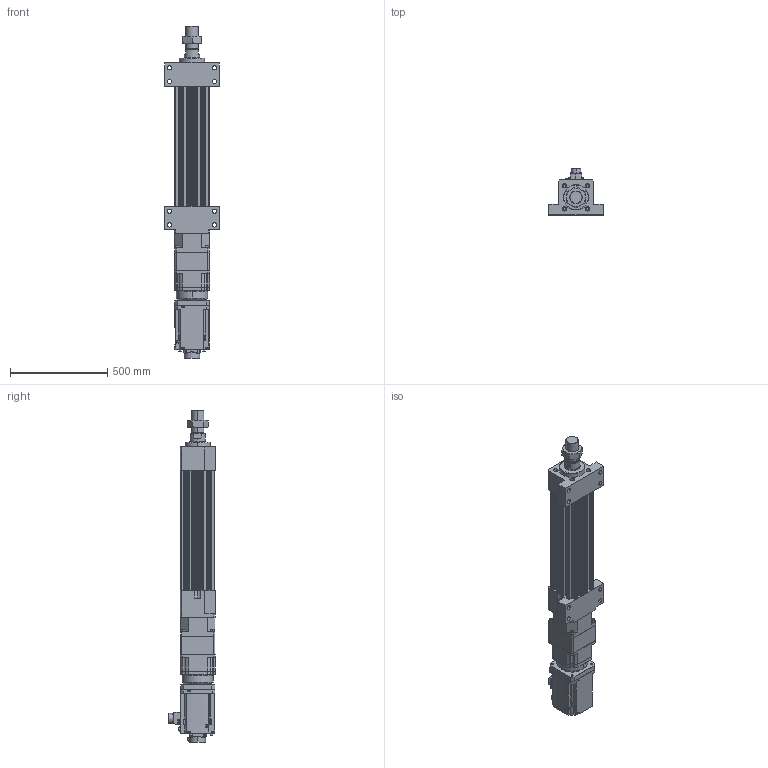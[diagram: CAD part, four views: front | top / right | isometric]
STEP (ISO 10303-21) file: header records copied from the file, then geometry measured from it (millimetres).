
FILE_DESCRIPTION (( 'STEP AP203' ), '1' );
FILE_NAME ('HES180HS-S300-W070G00-M-FFB.STEP', '2026-06-10T06:51:23', ( 'tms' ), ( '' ), 'SwSTEP 2.0', 'SolidWorks 2013', '' );
FILE_SCHEMA (( 'CONFIG_CONTROL_DESIGN' ));
Length unit declared in the file: millimetre
Products named in the file (9): HG-SR702B; HES180-FFB-300; HES180-S-G180; AB1803; AB1802; AB1801; M64X2.0P; HES180HS-S300-W070G00-M-FFB; HES180-M-ROD-300
Assembly tree (8 placements, depth 2):
  HES180HS-S300-W070G00-M-FFB
    HES180-FFB-300
    HES180-M-ROD-300
    M64X2.0P
    HES180-S-G180
    AB1801
    AB1802
    AB1803
    HG-SR702B
Bounding box: 280 x 239.1 x 1705.74 mm (x, y, z)
Volume: 27221391.2 mm3; surface area: 2396717.7 mm2
Topology: 5 solids, 20 shells, 1552 faces, 4023 edges, 2624 vertices
Faces by surface type: cylinder 704, plane 639, cone 142, bspline 63, torus 4
Entity records: 56368 total; most frequent: CARTESIAN_POINT 16636, DIRECTION 8361, ORIENTED_EDGE 7970, EDGE_CURVE 4009, AXIS2_PLACEMENT_3D 3129, VERTEX_POINT 2624, LINE 2103, VECTOR 2103
